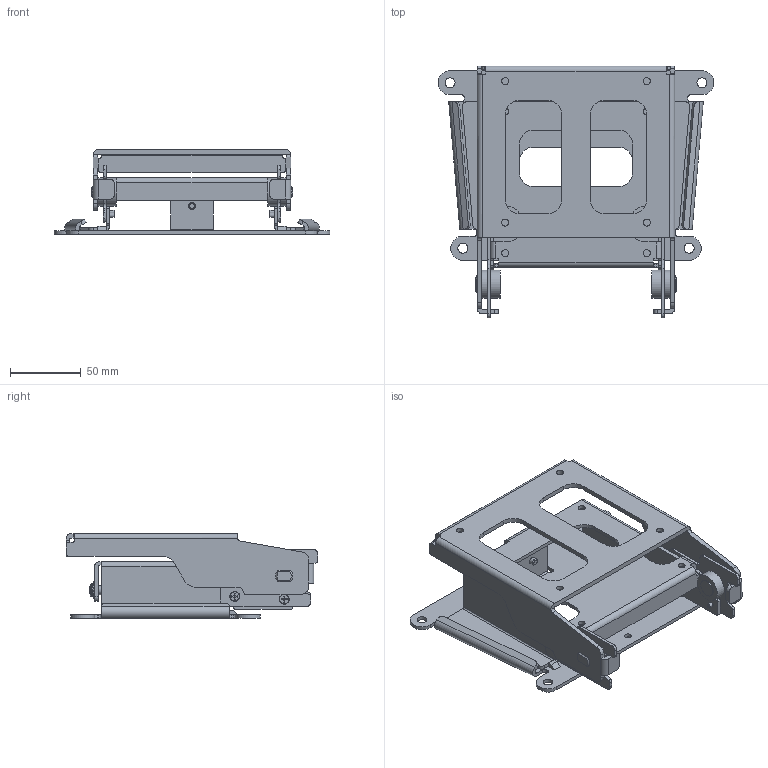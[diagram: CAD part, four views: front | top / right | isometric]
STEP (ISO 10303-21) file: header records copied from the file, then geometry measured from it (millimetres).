
FILE_DESCRIPTION (( 'STEP AP214' ), '1' );
FILE_NAME ('tv-410sk.step', '2014-09-24T02:44:15', ( '' ), ( '' ), 'SwSTEP 2.0', 'SolidWorks 2013', '' );
FILE_SCHEMA (( 'AUTOMOTIVE_DESIGN' ));
Length unit declared in the file: millimetre
Products named in the file (11): tv-410sk-10; tv-410sk-09; tv-410sk-08; tv-410sk-07; tv-410sk-06; tv-410sk-05; tv-410sk-04; tv-410sk-03; tv-410sk-02; tv-410sk-01; tv-410sk
Assembly tree (16 placements, depth 2):
  tv-410sk
    tv-410sk-01
    tv-410sk-02
    tv-410sk-03
    tv-410sk-04
    tv-410sk-05
    tv-410sk-06  x2
    tv-410sk-07  x6
    tv-410sk-08
    tv-410sk-09
    tv-410sk-10
Bounding box: 195 x 178 x 60 mm (x, y, z)
Volume: 191429.7 mm3; surface area: 152130.9 mm2
Topology: 16 solids, 16 shells, 652 faces, 1813 edges, 1199 vertices
Faces by surface type: plane 331, cylinder 255, cone 59, bspline 4, torus 2, sphere 1
Full cylindrical faces by diameter (mm): 3 x12, 5 x13, 5.5 x1, 6.5 x7, 7 x4, 10 x1, 12 x7, 20 x4
Entity records: 16784 total; most frequent: CARTESIAN_POINT 3124, DIRECTION 2778, ORIENTED_EDGE 2712, EDGE_CURVE 1356, AXIS2_PLACEMENT_3D 980, VERTEX_POINT 928, LINE 818, VECTOR 818
